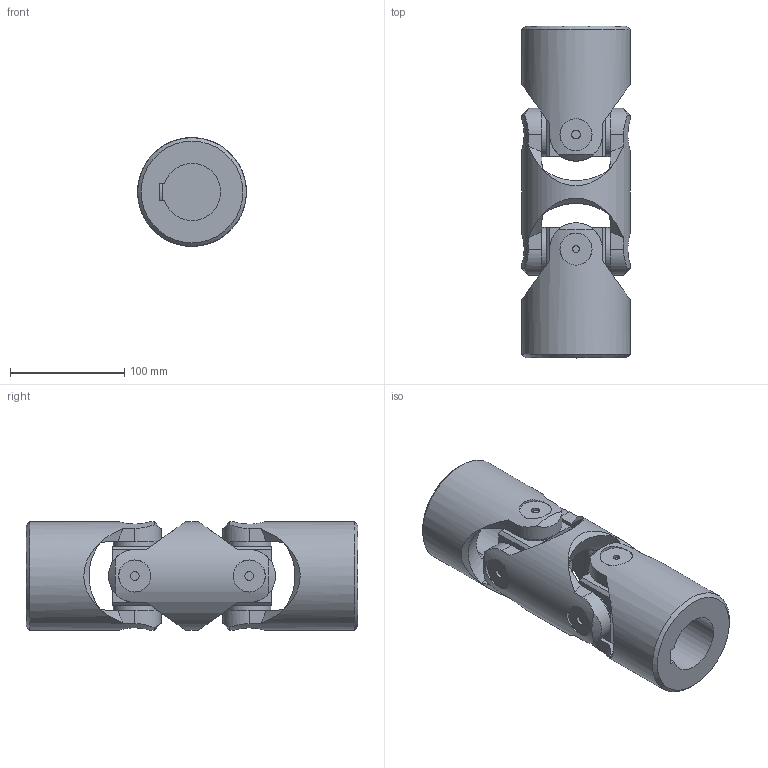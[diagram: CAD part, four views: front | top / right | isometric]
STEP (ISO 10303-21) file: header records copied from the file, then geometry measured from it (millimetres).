
FILE_DESCRIPTION(/* description */ (''),/* implementation_level */ '2;1');
FILE_NAME(/* name */ '\\SRV2016\Societa\Stefano\Disegni 3D\00Catalogo 3D\02Doppi GD-GBD\SG0D501C.stp',/* time_stamp */ '2021-11-23T16:04:04+01:00',/* author */ ('acquisti'),/* organization */ (''),/* preprocessor_version */ 'ST-DEVELOPER v15.6',/* originating_system */ 'Autodesk Inventor 2015',/* authorisation */ '');
FILE_SCHEMA (('AUTOMOTIVE_DESIGN { 1 0 10303 214 3 1 1 }'));
Length unit declared in the file: millimetre
Products named in the file (5): 9G MOD; 9G SFE; 9G MOC; 9G MOS; Ø95_9GD-00_SG0D5000
Assembly tree (5 placements, depth 2):
  Ø95_9GD-00_SG0D5000
    9G MOD
    9G SFE  x2
    9G MOC
    9G MOS
Bounding box: 95 x 290 x 95 mm (x, y, z)
Volume: 1247383.3 mm3; surface area: 176783.7 mm2
Topology: 5 solids, 5 shells, 156 faces, 386 edges, 264 vertices
Faces by surface type: plane 73, cylinder 49, cone 30, torus 4
Full cylindrical faces by diameter (mm): 6 x4, 7.494 x4, 28 x8, 38 x8, 50 x1, 56 x3, 95 x3
Entity records: 5130 total; most frequent: CARTESIAN_POINT 2036, ORIENTED_EDGE 608, DIRECTION 591, EDGE_CURVE 304, AXIS2_PLACEMENT_3D 259, VERTEX_POINT 226, EDGE_LOOP 196, FACE_OUTER_BOUND 138
